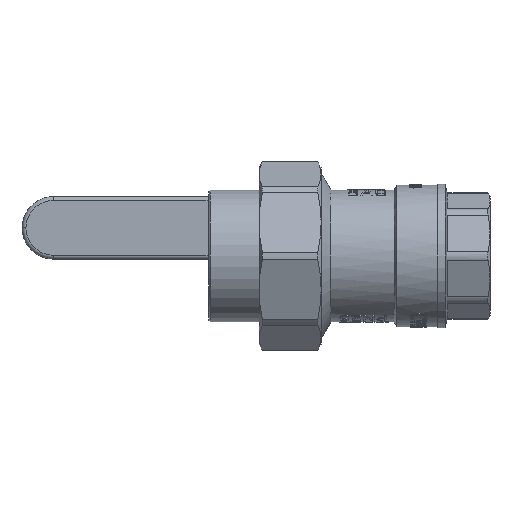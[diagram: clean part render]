
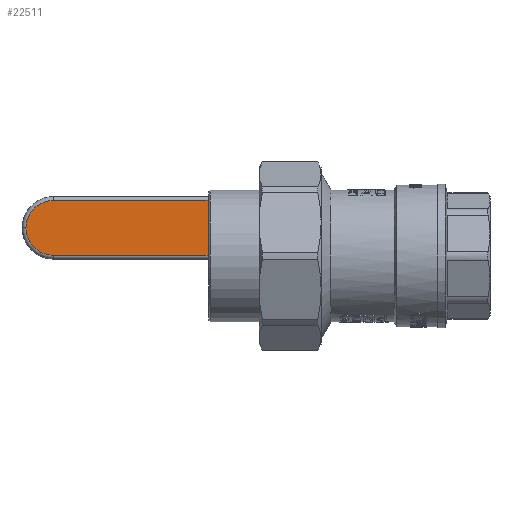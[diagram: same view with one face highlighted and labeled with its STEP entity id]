
A CAD part, front view. The second image highlights one B-rep face of the part: STEP entity #22511.
In plain terms, the highlighted planar face has unit normal (0, -1, 0).
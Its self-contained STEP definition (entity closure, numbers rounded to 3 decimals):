
#2204=PLANE('',#23710);
#3340=FACE_OUTER_BOUND('',#4690,.T.);
#4690=EDGE_LOOP('',(#20491,#20492,#20493,#20494,#20495));
#6619=LINE('',#44019,#8533);
#6621=LINE('',#44073,#8535);
#6624=LINE('',#44087,#8538);
#8533=VECTOR('',#27770,10.);
#8535=VECTOR('',#27790,10.);
#8538=VECTOR('',#27807,10.);
#9016=CIRCLE('',#23697,7.1);
#9017=CIRCLE('',#23699,7.1);
#11132=VERTEX_POINT('',#44009);
#11134=VERTEX_POINT('',#44015);
#11136=VERTEX_POINT('',#44021);
#11138=VERTEX_POINT('',#44063);
#11140=VERTEX_POINT('',#44069);
#14311=EDGE_CURVE('',#11132,#11134,#6619,.T.);
#14314=EDGE_CURVE('',#11134,#11136,#9016,.T.);
#14315=EDGE_CURVE('',#11136,#11138,#9017,.T.);
#14320=EDGE_CURVE('',#11138,#11140,#6621,.T.);
#14327=EDGE_CURVE('',#11132,#11140,#6624,.T.);
#20491=ORIENTED_EDGE('',*,*,#14320,.F.);
#20492=ORIENTED_EDGE('',*,*,#14315,.F.);
#20493=ORIENTED_EDGE('',*,*,#14314,.F.);
#20494=ORIENTED_EDGE('',*,*,#14311,.F.);
#20495=ORIENTED_EDGE('',*,*,#14327,.T.);
#22511=ADVANCED_FACE('',(#3340),#2204,.T.);
#23697=AXIS2_PLACEMENT_3D('',#44061,#27775,#27776);
#23699=AXIS2_PLACEMENT_3D('',#44064,#27779,#27780);
#23710=AXIS2_PLACEMENT_3D('',#44086,#27805,#27806);
#27770=DIRECTION('',(-1.,0.,0.));
#27775=DIRECTION('center_axis',(0.,1.,0.));
#27776=DIRECTION('ref_axis',(-0.707,0.,-0.707));
#27779=DIRECTION('center_axis',(0.,1.,0.));
#27780=DIRECTION('ref_axis',(-0.703,0.,0.711));
#27790=DIRECTION('',(1.,0.,0.));
#27805=DIRECTION('center_axis',(0.,-1.,0.));
#27806=DIRECTION('ref_axis',(1.,0.,0.));
#27807=DIRECTION('',(0.,0.,1.));
#44009=CARTESIAN_POINT('',(-28.601,41.7,0.2));
#44015=CARTESIAN_POINT('',(-84.7,41.7,0.2));
#44019=CARTESIAN_POINT('',(-74.892,41.7,0.2));
#44021=CARTESIAN_POINT('',(-91.8,41.7,7.294));
#44061=CARTESIAN_POINT('Origin',(-84.7,41.7,7.3));
#44063=CARTESIAN_POINT('',(-84.701,41.7,14.3));
#44064=CARTESIAN_POINT('Origin',(-84.701,41.7,7.2));
#44069=CARTESIAN_POINT('',(-28.601,41.7,14.3));
#44073=CARTESIAN_POINT('',(-74.892,41.7,14.3));
#44086=CARTESIAN_POINT('Origin',(-92.8,41.7,7.25));
#44087=CARTESIAN_POINT('',(-28.601,41.7,7.25));
